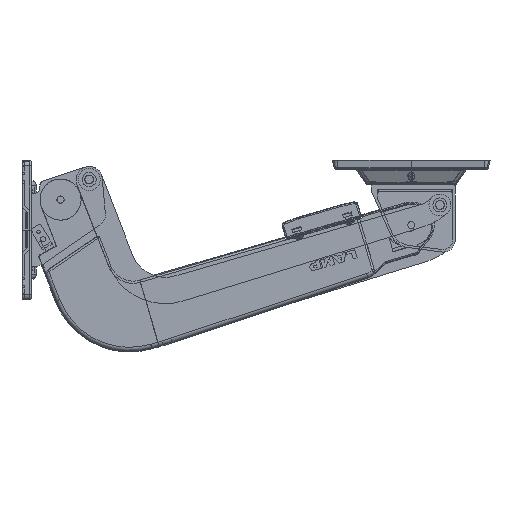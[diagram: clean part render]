
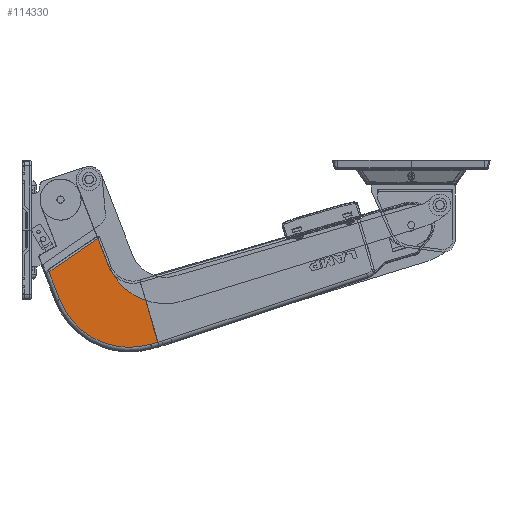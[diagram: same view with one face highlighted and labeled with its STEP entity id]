
A CAD part, front view. The second image highlights one B-rep face of the part: STEP entity #114330.
In plain terms, the highlighted planar face has unit normal (0, -1, 0).
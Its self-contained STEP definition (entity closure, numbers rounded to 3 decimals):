
#1252 = DIRECTION ( 'NONE',  ( 0.679, 0., 0.734 ) ) ;
#10611 = CARTESIAN_POINT ( 'NONE',  ( 44.06, -21.6, -45.2 ) ) ;
#17453 = ORIENTED_EDGE ( 'NONE', *, *, #155486, .F. ) ;
#20973 = VERTEX_POINT ( 'NONE', #147102 ) ;
#23770 = DIRECTION ( 'NONE',  ( -0.873, 0., -0.488 ) ) ;
#24725 = VECTOR ( 'NONE', #1252, 1000. ) ;
#27943 = CARTESIAN_POINT ( 'NONE',  ( 139.708, -21.6, -90.694 ) ) ;
#31410 = CARTESIAN_POINT ( 'NONE',  ( 63.597, -21.6, -31.911 ) ) ;
#34875 = ORIENTED_EDGE ( 'NONE', *, *, #117111, .F. ) ;
#39297 = CARTESIAN_POINT ( 'NONE',  ( 135.664, -21.6, -208.949 ) ) ;
#40572 = EDGE_CURVE ( 'NONE', #72475, #61200, #104591, .T. ) ;
#41120 = DIRECTION ( 'NONE',  ( -0.873, 0., -0.488 ) ) ;
#41397 = EDGE_CURVE ( 'NONE', #150361, #105775, #75931, .T. ) ;
#42425 = ORIENTED_EDGE ( 'NONE', *, *, #147607, .F. ) ;
#44586 = DIRECTION ( 'NONE',  ( 0.562, 0., -0.827 ) ) ;
#46773 = VECTOR ( 'NONE', #44586, 1000. ) ;
#47839 = DIRECTION ( 'NONE',  ( 0., 1., 0. ) ) ;
#48672 = CARTESIAN_POINT ( 'NONE',  ( 139.698, -21.6, -108.46 ) ) ;
#49455 = CARTESIAN_POINT ( 'NONE',  ( 153.134, -21.6, -114.694 ) ) ;
#52469 = CARTESIAN_POINT ( 'NONE',  ( 115.008, -21.6, -107.494 ) ) ;
#53335 = CARTESIAN_POINT ( 'NONE',  ( 9.142, -21.6, -68.951 ) ) ;
#57401 = CARTESIAN_POINT ( 'NONE',  ( 95.652, -21.6, -79.038 ) ) ;
#59701 = CARTESIAN_POINT ( 'NONE',  ( 181.552, -21.6, -183.278 ) ) ;
#61200 = VERTEX_POINT ( 'NONE', #155297 ) ;
#66887 = VERTEX_POINT ( 'NONE', #139204 ) ;
#71367 = ORIENTED_EDGE ( 'NONE', *, *, #40572, .F. ) ;
#72475 = VERTEX_POINT ( 'NONE', #59701 ) ;
#73228 = VECTOR ( 'NONE', #140664, 1000. ) ;
#73538 = VECTOR ( 'NONE', #118828, 1000. ) ;
#75931 = LINE ( 'NONE', #79542, #24725 ) ;
#77629 = LINE ( 'NONE', #53335, #73538 ) ;
#79542 = CARTESIAN_POINT ( 'NONE',  ( 88.724, -21.6, -86.526 ) ) ;
#84809 = FACE_OUTER_BOUND ( 'NONE', #138809, .T. ) ;
#86263 = VECTOR ( 'NONE', #130481, 1000. ) ;
#101936 = DIRECTION ( 'NONE',  ( 0., 1., 0. ) ) ;
#102266 = EDGE_CURVE ( 'NONE', #61200, #150361, #77629, .T. ) ;
#104591 = CIRCLE ( 'NONE', #124107, 85.73 ) ;
#105300 = ORIENTED_EDGE ( 'NONE', *, *, #156165, .T. ) ;
#105775 = VERTEX_POINT ( 'NONE', #57401 ) ;
#114330 = ADVANCED_FACE ( 'NONE', ( #84809 ), #127030, .F. ) ;
#117111 = EDGE_CURVE ( 'NONE', #161209, #20973, #129447, .T. ) ;
#118828 = DIRECTION ( 'NONE',  ( -0.562, 0., 0.827 ) ) ;
#119216 = DIRECTION ( 'NONE',  ( 0., -1., 0. ) ) ;
#120888 = LINE ( 'NONE', #39297, #86263 ) ;
#124107 = AXIS2_PLACEMENT_3D ( 'NONE', #48672, #47839, #139036 ) ;
#125943 = ORIENTED_EDGE ( 'NONE', *, *, #41397, .F. ) ;
#126126 = ORIENTED_EDGE ( 'NONE', *, *, #102266, .F. ) ;
#127030 = PLANE ( 'NONE',  #140092 ) ;
#129447 = CIRCLE ( 'NONE', #136174, 29.872 ) ;
#130481 = DIRECTION ( 'NONE',  ( -0.873, 0., -0.488 ) ) ;
#136174 = AXIS2_PLACEMENT_3D ( 'NONE', #27943, #119216, #41120 ) ;
#138809 = EDGE_LOOP ( 'NONE', ( #17453, #125943, #126126, #71367, #42425, #105300, #34875 ) ) ;
#139036 = DIRECTION ( 'NONE',  ( -0.873, 0., -0.488 ) ) ;
#139204 = CARTESIAN_POINT ( 'NONE',  ( 189.13, -21.6, -179.039 ) ) ;
#140092 = AXIS2_PLACEMENT_3D ( 'NONE', #10611, #101936, #23770 ) ;
#140664 = DIRECTION ( 'NONE',  ( -0.488, 0., 0.873 ) ) ;
#147102 = CARTESIAN_POINT ( 'NONE',  ( 154.292, -21.6, -116.764 ) ) ;
#147607 = EDGE_CURVE ( 'NONE', #66887, #72475, #120888, .T. ) ;
#150361 = VERTEX_POINT ( 'NONE', #153588 ) ;
#150847 = LINE ( 'NONE', #31410, #46773 ) ;
#153588 = CARTESIAN_POINT ( 'NONE',  ( 49.749, -21.6, -128.649 ) ) ;
#155297 = CARTESIAN_POINT ( 'NONE',  ( 68.812, -21.6, -156.676 ) ) ;
#155486 = EDGE_CURVE ( 'NONE', #105775, #161209, #150847, .T. ) ;
#156165 = EDGE_CURVE ( 'NONE', #66887, #20973, #164882, .T. ) ;
#161209 = VERTEX_POINT ( 'NONE', #52469 ) ;
#164882 = LINE ( 'NONE', #49455, #73228 ) ;
